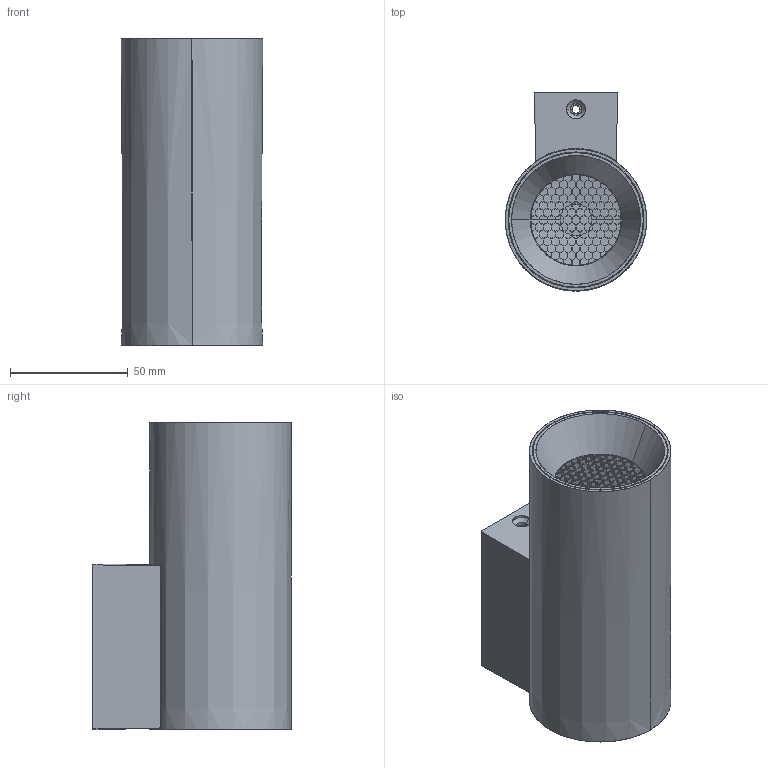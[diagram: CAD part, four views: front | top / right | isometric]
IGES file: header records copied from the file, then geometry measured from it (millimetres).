
Start section: SolidWorks IGES file using analytic representation for surfaces
Global section: file name: C:\Users\extension46\Desktop\3D-WEB\Pipe\Pipe2.IGS; native system: SolidWorks 2023; preprocessor: SolidWorks 2023; author: y.wang; date: 240627.092307; units: millimetre
Bounding box: 60 x 84 x 130 mm (x, y, z)
Surface area: 50852 mm2 (no closed solid volume)
Topology: 0 solids, 0 shells, 927 faces, 6966 edges, 6954 vertices
Faces by surface type: bspline 761, revolution 166
